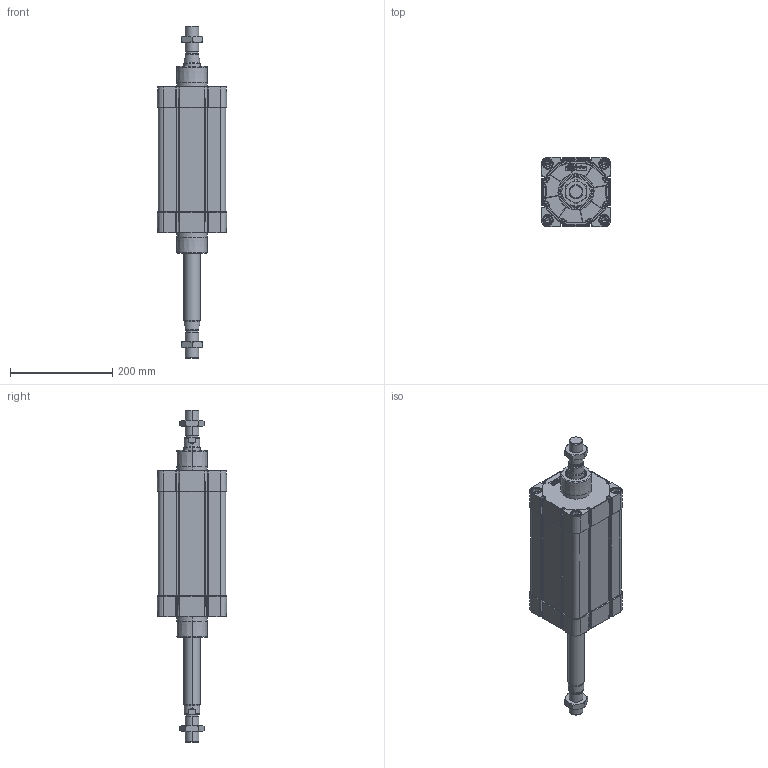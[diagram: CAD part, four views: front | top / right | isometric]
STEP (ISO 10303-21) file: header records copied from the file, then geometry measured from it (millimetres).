
FILE_DESCRIPTION (( 'STEP AP214' ), '1' );
FILE_NAME ('N11M41250125.STEP', '2021-09-28T14:24:53', ( '' ), ( '' ), 'SwSTEP 2.0', 'SolidWorks 2016', '' );
FILE_SCHEMA (( 'AUTOMOTIVE_DESIGN' ));
Length unit declared in the file: millimetre
Products named in the file (7): 21.G03.0000_21.G03.0125; 000.516.7_000.516.0125; 21.754.0; TA Ø125 ISO 15552 WEB; 21.G01.0000_21.G01.0125; N11M41250125; Pistone Ø125 ISO 15552
Assembly tree (8 placements, depth 2):
  N11M41250125
    TA Ø125 ISO 15552 WEB  x2
    000.516.7_000.516.0125
    21.754.0  x2
    21.G01.0000_21.G01.0125
    21.G03.0000_21.G03.0125
    Pistone Ø125 ISO 15552
Bounding box: 135.91 x 135.95 x 648 mm (x, y, z)
Volume: 2907529.3 mm3; surface area: 807998.6 mm2
Topology: 20 solids, 24 shells, 2642 faces, 6784 edges, 4237 vertices
Faces by surface type: plane 1046, cylinder 722, bspline 400, cone 342, torus 102, sphere 30
Entity records: 65467 total; most frequent: CARTESIAN_POINT 17890, ORIENTED_EDGE 7490, DIRECTION 6921, EDGE_CURVE 3745, AXIS2_PLACEMENT_3D 2492, VERTEX_POINT 2369, LINE 1937, VECTOR 1937
